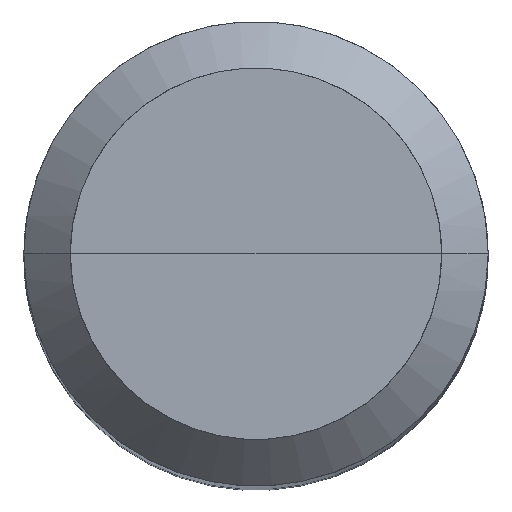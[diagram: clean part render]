
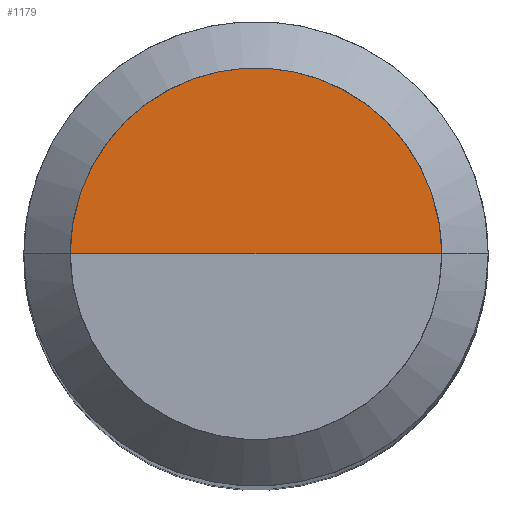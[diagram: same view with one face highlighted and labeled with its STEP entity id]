
A CAD part, top view. The second image highlights one B-rep face of the part: STEP entity #1179.
In plain terms, the highlighted free-form (B-spline) face has degree [1, 2] with [2, 5] control points.
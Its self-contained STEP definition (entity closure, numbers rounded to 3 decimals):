
#940=CARTESIAN_POINT('',(3.2,0.0,33.0));
#941=CARTESIAN_POINT('',(3.2,3.2,33.0));
#942=CARTESIAN_POINT('',(0.0,3.2,33.0));
#943=CARTESIAN_POINT('',(-3.2,3.2,33.0));
#944=CARTESIAN_POINT('',(-3.2,0.0,33.0));
#945=CARTESIAN_POINT('',(0.0,0.0,33.0));
#1164=(
BOUNDED_SURFACE()
B_SPLINE_SURFACE(1,2,(
(#940,#941,#942,#943,#944),
(#945,#945,#945,#945,#945)
), .UNSPECIFIED.,.F.,.F.,.F.)
B_SPLINE_SURFACE_WITH_KNOTS((2,2),(3,2,3),(
0.0,1.0),(
0.0,0.5,1.0), .UNSPECIFIED.)
GEOMETRIC_REPRESENTATION_ITEM()
RATIONAL_B_SPLINE_SURFACE(((1.0,0.707,1.0,0.707,1.0),
(1.0,0.707,1.0,0.707,1.0)
))
REPRESENTATION_ITEM('')
SURFACE()
);
#1165=(
BOUNDED_CURVE()
B_SPLINE_CURVE(2,(#944,#943,#942,#941,#940),.UNSPECIFIED.,.F.,.F.)
B_SPLINE_CURVE_WITH_KNOTS((3,2,3),
(0.0,0.5,1.0),.UNSPECIFIED.)
CURVE()
GEOMETRIC_REPRESENTATION_ITEM()
RATIONAL_B_SPLINE_CURVE((1.0,0.707,1.0,0.707,1.0))
REPRESENTATION_ITEM('')
);
#1166=(
BOUNDED_CURVE()
B_SPLINE_CURVE(1,(#940,#945),.UNSPECIFIED.,.F.,.F.)
B_SPLINE_CURVE_WITH_KNOTS((2,2),
(0.0,1.0),.UNSPECIFIED.)
CURVE()
GEOMETRIC_REPRESENTATION_ITEM()
RATIONAL_B_SPLINE_CURVE((1.0,1.0))
REPRESENTATION_ITEM('')
);
#1167=(
BOUNDED_CURVE()
B_SPLINE_CURVE(1,(#945,#944),.UNSPECIFIED.,.F.,.F.)
B_SPLINE_CURVE_WITH_KNOTS((2,2),
(0.0,1.0),.UNSPECIFIED.)
CURVE()
GEOMETRIC_REPRESENTATION_ITEM()
RATIONAL_B_SPLINE_CURVE((1.0,1.0))
REPRESENTATION_ITEM('')
);
#1168=VERTEX_POINT('',#940);
#1169=VERTEX_POINT('',#944);
#1170=VERTEX_POINT('',#945);
#1171=EDGE_CURVE('',#1169,#1168,#1165,.T.);
#1172=EDGE_CURVE('',#1168,#1170,#1166,.T.);
#1173=EDGE_CURVE('',#1170,#1169,#1167,.T.);
#1174=ORIENTED_EDGE('',*,*,#1171,.T.);
#1175=ORIENTED_EDGE('',*,*,#1172,.T.);
#1176=ORIENTED_EDGE('',*,*,#1173,.T.);
#1177=EDGE_LOOP('',(#1174,#1175,#1176));
#1178=FACE_OUTER_BOUND('',#1177,.T.);
#1179=ADVANCED_FACE('',(#1178),#1164,.T.);
